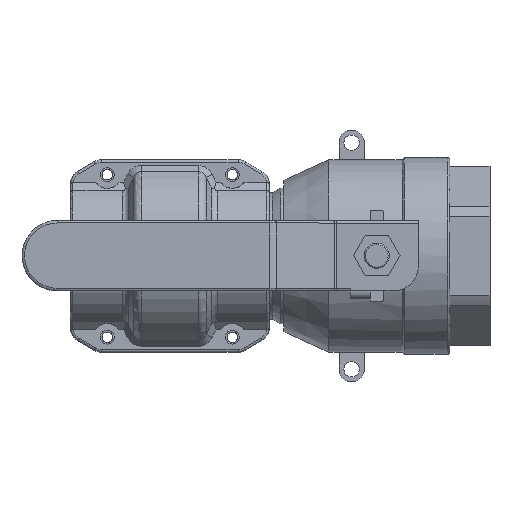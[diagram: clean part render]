
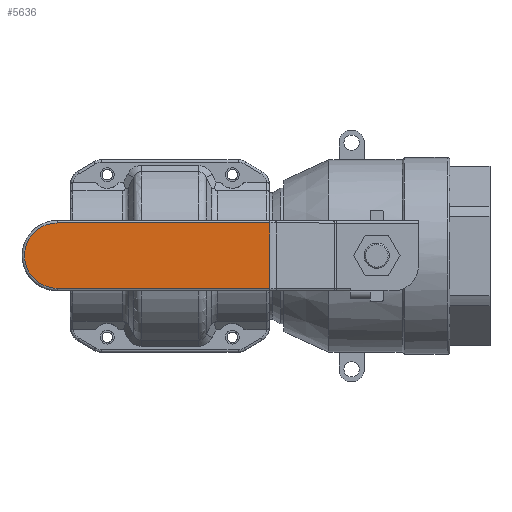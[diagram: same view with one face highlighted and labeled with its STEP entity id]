
A CAD part, top view. The second image highlights one B-rep face of the part: STEP entity #5636.
In plain terms, the highlighted planar face has unit normal (0, 0, 1).
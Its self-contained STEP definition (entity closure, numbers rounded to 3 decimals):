
#2711=DIRECTION('',(1.,0.,0.));
#2712=VECTOR('',#2711,84.972);
#2713=CARTESIAN_POINT('',(-47.281,13.078,80.478));
#2714=LINE('',#2713,#2712);
#2718=DIRECTION('',(0.,1.,0.));
#2719=VECTOR('',#2718,26.155);
#2720=CARTESIAN_POINT('',(37.692,-13.078,80.478));
#2721=LINE('',#2720,#2719);
#2725=DIRECTION('',(-1.,0.,0.));
#2726=VECTOR('',#2725,84.972);
#2727=CARTESIAN_POINT('',(37.692,-13.078,80.478));
#2728=LINE('',#2727,#2726);
#2732=CARTESIAN_POINT('',(-47.281,0.,80.478));
#2733=DIRECTION('',(0.,0.,-1.));
#2734=DIRECTION('',(0.,-1.,0.));
#2735=AXIS2_PLACEMENT_3D('',#2732,#2733,#2734);
#3279=CARTESIAN_POINT('',(37.692,13.078,80.478));
#3280=VERTEX_POINT('',#3279);
#3283=CARTESIAN_POINT('',(-47.281,13.078,80.478));
#3284=VERTEX_POINT('',#3283);
#3287=CARTESIAN_POINT('',(-47.281,-13.078,80.478));
#3288=VERTEX_POINT('',#3287);
#3291=CARTESIAN_POINT('',(37.692,-13.078,80.478));
#3292=VERTEX_POINT('',#3291);
#5625=CARTESIAN_POINT('',(39.233,14.084,80.478));
#5626=DIRECTION('',(0.,0.,1.));
#5627=DIRECTION('',(-1.,0.,0.));
#5628=AXIS2_PLACEMENT_3D('',#5625,#5626,#5627);
#5629=PLANE('',#5628);
#5630=ORIENTED_EDGE('',*,*,#5566,.T.);
#5631=ORIENTED_EDGE('',*,*,#5620,.F.);
#5632=ORIENTED_EDGE('',*,*,#5321,.T.);
#5633=ORIENTED_EDGE('',*,*,#5336,.T.);
#5634=EDGE_LOOP('',(#5630,#5631,#5632,#5633));
#5635=FACE_OUTER_BOUND('',#5634,.F.);
#2736=CIRCLE('',#2735,13.078);
#5321=EDGE_CURVE('',#3292,#3288,#2728,.T.);
#5336=EDGE_CURVE('',#3288,#3284,#2736,.T.);
#5566=EDGE_CURVE('',#3284,#3280,#2714,.T.);
#5620=EDGE_CURVE('',#3292,#3280,#2721,.T.);
#5636=ADVANCED_FACE('',(#5635),#5629,.T.);
